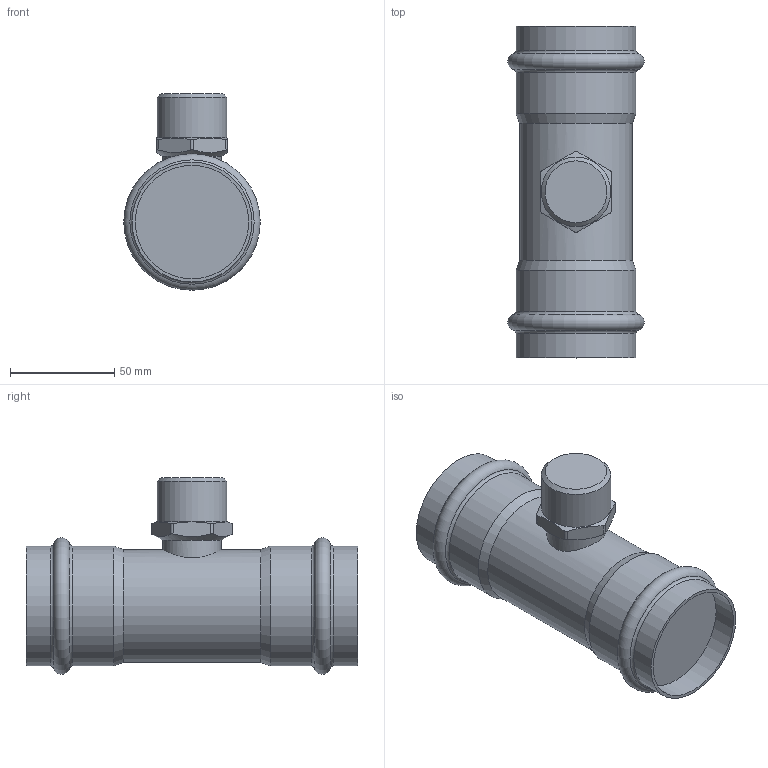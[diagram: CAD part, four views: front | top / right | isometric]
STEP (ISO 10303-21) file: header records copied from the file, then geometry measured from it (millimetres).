
FILE_DESCRIPTION(('STEP AP203'), '1');
FILE_NAME('VTi.933.I.540654', '', ('UNSPECIFIED'), ('UNSPECIFIED'), 'C3D Converter', 'C3D Toolkit', '');
FILE_SCHEMA(('CONFIG_CONTROL_DESIGN'));
Length unit declared in the file: millimetre
Bounding box: 65.38 x 159 x 94.19 mm (x, y, z)
Volume: 375820.7 mm3; surface area: 43121.7 mm2
Topology: 1 solids, 1 shells, 37 faces, 84 edges, 51 vertices
Faces by surface type: cylinder 15, plane 11, torus 6, cone 5
Full cylindrical faces by diameter (mm): 28 x1, 33.249 x1, 54 x1, 54.4 x2, 57.4 x4
Entity records: 1988 total; most frequent: CARTESIAN_POINT 1240, DIRECTION 134, ORIENTED_EDGE 126, EDGE_CURVE 63, AXIS2_PLACEMENT_3D 61, EDGE_LOOP 60, VERTEX_POINT 51, ADVANCED_FACE 37
